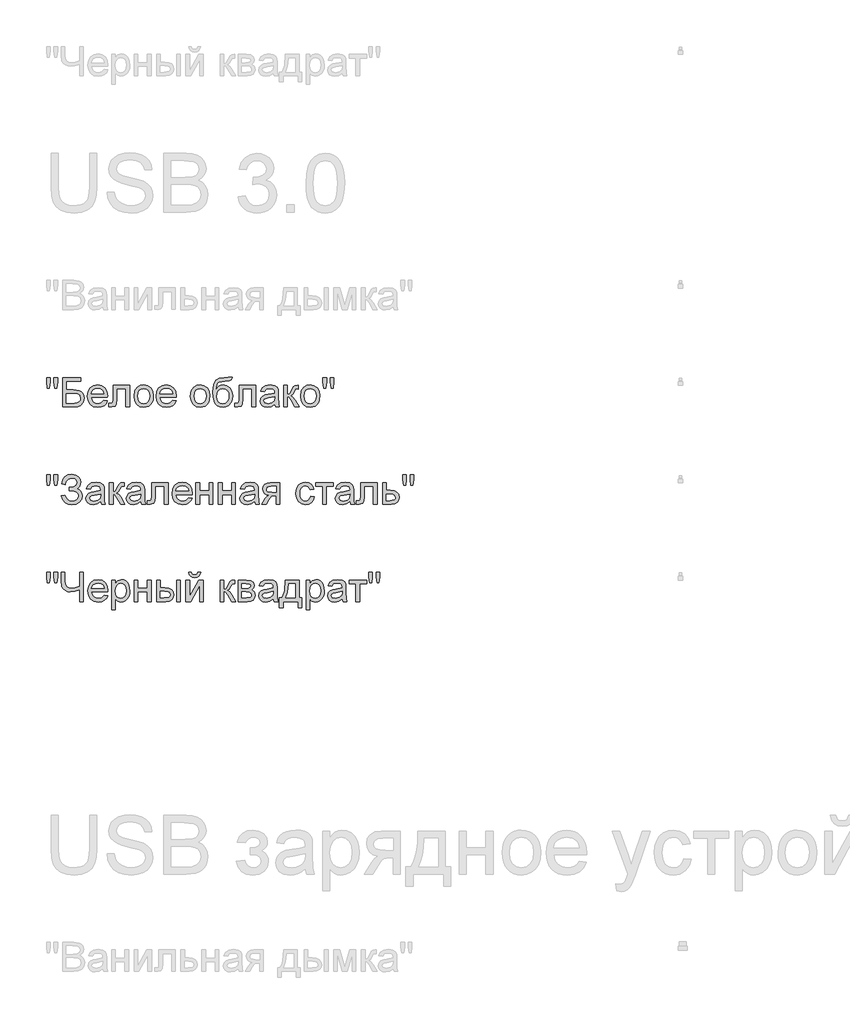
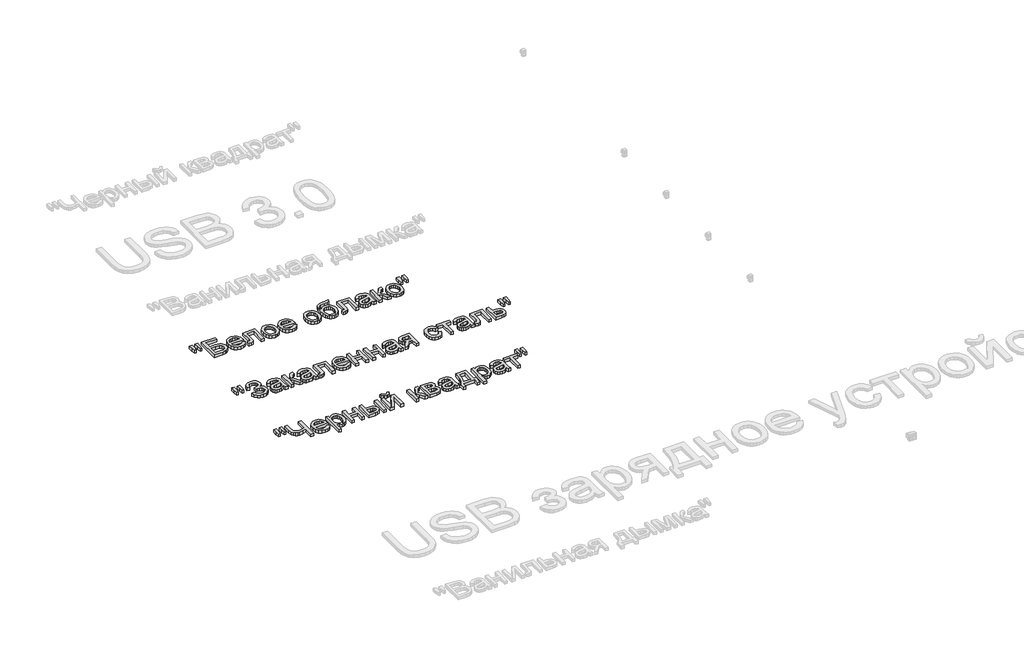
# One storey, part 31 of 168: 3 proxies.
"""IFC4 building model written with IfcOpenShell, lengths in millimetres."""

from ifc_helpers import new_model, si_unit, origin, origin_with_axes, place, context, project, spatial, polyline, outline, extrude, element, save

model = new_model("IFC4")

# Units and contexts
model_context = context("Model", 3, world=origin())
ifc_project = project(units=[si_unit("LENGTHUNIT", "METRE", prefix="MILLI")], contexts=[model_context])

# Site, building, storey
site = spatial("IfcSite", under=ifc_project)
building = spatial("IfcBuilding", under=site)
storey = spatial("IfcBuildingStorey", under=building, Name="Этаж 01", Elevation=0.0)

# Proxies
placement = place(None, origin())
element("IfcBuildingElementProxy", 1, Name="150", ObjectType="150", at=placement, inside=storey, context=model_context, shape_type="SweptSolid", body=[
    extrude(outline(polyline([(60180.1485789, -50670.3300622), (60175.550054, -50641.2305964), (60175.550054, -50616.1778325), (60194.3856121, -50616.1778325), (60194.3856121, -50641.2305964), (60190.2653338, -50670.3300622), (60180.1485789, -50670.3300622)])), origin_with_axes(), (0.0, 0.0, 1.0), 20.0),
    extrude(outline(polyline([(60217.7093306, -50670.3300622), (60213.2211703, -50641.2305964), (60213.2211703, -50616.1778325), (60232.0567284, -50616.1778325), (60232.0567284, -50641.2305964), (60227.6421445, -50670.3300622), (60217.7093306, -50670.3300622)])), origin_with_axes(), (0.0, 0.0, 1.0), 20.0),
    extrude(outline(polyline([(60257.9556209, -50616.1778325), (60352.1334117, -50616.1778325), (60352.1334117, -50635.0133907), (60276.791179, -50635.0133907), (60276.791179, -50679.7478413), (60312.0710624, -50679.7478413), (60343.157091, -50683.573814), (60353.5589544, -50689.101241), (60361.6615553, -50698.0315764), (60366.8762826, -50709.5278888), (60368.614525, -50722.7532465), (60363.6665122, -50744.2191609), (60348.8960501, -50760.5347274), (60335.6247071, -50765.2804052), (60315.4555767, -50766.8622977), (60257.9556209, -50766.8622977), (60257.9556209, -50616.1778325)]), holes=[polyline([(60276.791179, -50748.0267396), (60317.1478339, -50748.0267396), (60331.4124583, -50746.4724382), (60341.6119866, -50741.8095339), (60347.7372218, -50734.0380267), (60349.7789669, -50723.1579167), (60345.1068655, -50708.4058487), (60332.102237, -50700.533174), (60303.7201411, -50698.5833994), (60276.791179, -50698.5833994), (60276.791179, -50748.0267396)])]), origin_with_axes(), (0.0, 0.0, 1.0), 20.0),
    extrude(outline(polyline([(60469.6349209, -50733.900071), (60488.1025971, -50736.2545157), (60481.4485315, -50750.1696522), (60470.8305374, -50760.5715156), (60456.4877381, -50767.0554358), (60438.6592569, -50769.2167425), (60416.5587461, -50765.4873388), (60399.5534008, -50754.2991276), (60388.710079, -50736.3786759), (60385.0956384, -50712.4525506), (60388.7468672, -50687.7216835), (60399.7005536, -50669.2264162), (60416.4759726, -50657.6933157), (60437.5923991, -50653.8489488), (60458.0512366, -50657.6841186), (60474.3989927, -50669.189628), (60485.1181544, -50687.6481071), (60488.6912083, -50712.342186), (60488.5808437, -50717.4189576), (60403.9311966, -50717.4189576), (60407.1915508, -50731.518035), (60414.7653213, -50741.8831103), (60425.6960151, -50748.2566658), (60439.0271389, -50750.3811843), (60457.4948151, -50746.444847), (60469.6349209, -50733.900071)]), holes=[polyline([(60403.9311966, -50698.5833994), (60469.8556501, -50698.5833994), (60467.3080673, -50688.6321915), (60462.3140692, -50681.5136749), (60451.3327917, -50674.8917989), (60437.5188227, -50672.684507), (60424.8222954, -50674.445742), (60414.3238629, -50679.7294472), (60407.0260039, -50687.9654053), (60403.9311966, -50698.5833994)])]), origin_with_axes(), (0.0, 0.0, 1.0), 20.0),
    extrude(outline(polyline([(60516.9445455, -50656.2033936), (60601.7045572, -50656.2033936), (60601.7045572, -50766.7519331), (60582.868999, -50766.7519331), (60582.868999, -50675.0389517), (60535.7801036, -50675.0389517), (60535.7801036, -50727.830018), (60534.5109108, -50752.1838061), (60527.539547, -50762.4661079), (60511.0584336, -50766.8622977), (60495.7545426, -50765.9058045), (60495.7545426, -50748.0267396), (60504.1790403, -50748.0267396), (60512.6955084, -50746.8679113), (60516.0984169, -50743.1890913), (60516.9445455, -50726.7631603), (60516.9445455, -50656.2033936)])), origin_with_axes(), (0.0, 0.0, 1.0), 20.0),
    extrude(outline(polyline([(60625.2490049, -50711.5328457), (60629.323298, -50684.852204), (60641.5461773, -50666.0994193), (60656.6477332, -50656.9115664), (60674.7291332, -50653.8489488), (60694.516586, -50657.5783525), (60710.3217163, -50668.7665637), (60720.6821929, -50686.5306656), (60724.1356852, -50709.9877413), (60722.6089749, -50729.0164375), (60718.0288441, -50743.501791), (60710.5286499, -50754.3497114), (60700.2417496, -50762.4661079), (60688.0234688, -50767.5290839), (60674.7291332, -50769.2167425), (60654.7025571, -50765.5011344), (60638.915821, -50754.3543099), (60628.6657089, -50736.2177275), (60625.2490049, -50711.5328457)]), holes=[polyline([(60644.084563, -50711.4960575), (60646.2642638, -50728.5427894), (60652.8033663, -50740.6874938), (60662.6442097, -50747.9577617), (60674.7291332, -50750.3811843), (60686.7588745, -50747.9439661), (60696.5813237, -50740.6323115), (60703.1204262, -50728.3266587), (60705.300127, -50710.9074463), (60703.1066306, -50694.357355), (60696.5261414, -50682.3781975), (60686.6898966, -50675.1079296), (60674.7291332, -50672.684507), (60662.6442097, -50675.0987326), (60652.8033663, -50682.3414093), (60646.2642638, -50694.4585226), (60644.084563, -50711.4960575)])]), origin_with_axes(), (0.0, 0.0, 1.0), 20.0),
    extrude(outline(polyline([(60822.8016363, -50733.900071), (60841.2693124, -50736.2545157), (60834.6152469, -50750.1696522), (60823.9972528, -50760.5715156), (60809.6544535, -50767.0554358), (60791.8259723, -50769.2167425), (60769.7254614, -50765.4873388), (60752.7201162, -50754.2991276), (60741.8767944, -50736.3786759), (60738.2623538, -50712.4525506), (60741.9135826, -50687.7216835), (60752.867269, -50669.2264162), (60769.642688, -50657.6933157), (60790.7591145, -50653.8489488), (60811.217952, -50657.6841186), (60827.5657081, -50669.189628), (60838.2848698, -50687.6481071), (60841.8579236, -50712.342186), (60841.747559, -50717.4189576), (60757.0979119, -50717.4189576), (60760.3582661, -50731.518035), (60767.9320367, -50741.8831103), (60778.8627305, -50748.2566658), (60792.1938543, -50750.3811843), (60810.6615304, -50746.444847), (60822.8016363, -50733.900071)]), holes=[polyline([(60757.0979119, -50698.5833994), (60823.0223655, -50698.5833994), (60820.4747827, -50688.6321915), (60815.4807846, -50681.5136749), (60804.499507, -50674.8917989), (60790.6855381, -50672.684507), (60777.9890107, -50674.445742), (60767.4905783, -50679.7294472), (60760.1927192, -50687.9654053), (60757.0979119, -50698.5833994)])]), origin_with_axes(), (0.0, 0.0, 1.0), 20.0),
    extrude(outline(polyline([(60914.8457115, -50711.5328457), (60918.9200046, -50684.852204), (60931.1428839, -50666.0994193), (60946.2444398, -50656.9115664), (60964.3258398, -50653.8489488), (60984.1132926, -50657.5783525), (60999.9184229, -50668.7665637), (61010.2788995, -50686.5306656), (61013.7323918, -50709.9877413), (61012.2056815, -50729.0164375), (61007.6255507, -50743.501791), (61000.1253565, -50754.3497114), (60989.8384562, -50762.4661079), (60977.6201754, -50767.5290839), (60964.3258398, -50769.2167425), (60944.2992637, -50765.5011344), (60928.5125276, -50754.3543099), (60918.2624155, -50736.2177275), (60914.8457115, -50711.5328457)]), holes=[polyline([(60933.6812696, -50711.4960575), (60935.8609704, -50728.5427894), (60942.4000729, -50740.6874938), (60952.2409163, -50747.9577617), (60964.3258398, -50750.3811843), (60976.3555811, -50747.9439661), (60986.1780303, -50740.6323115), (60992.7171328, -50728.3266587), (60994.8968336, -50710.9074463), (60992.7033372, -50694.357355), (60986.122848, -50682.3781975), (60976.2866032, -50675.1079296), (60964.3258398, -50672.684507), (60952.2409163, -50675.0987326), (60942.4000729, -50682.3414093), (60935.8609704, -50694.4585226), (60933.6812696, -50711.4960575)])]), origin_with_axes(), (0.0, 0.0, 1.0), 20.0),
    extrude(outline(polyline([(61112.6190721, -50613.8233877), (61129.1001855, -50613.8233877), (61124.2441431, -50628.5202734), (61114.6424231, -50633.8361683), (61091.576222, -50635.0133907), (61060.5085875, -50639.3543982), (61053.3808738, -50645.0013868), (61048.5892108, -50653.2603376), (61044.560903, -50677.8716431), (61060.8764695, -50659.8454253), (61070.7954878, -50655.3480679), (61081.9009255, -50653.8489488), (61101.4998388, -50657.661126), (61117.401538, -50669.0976575), (61127.9413572, -50687.0365033), (61131.4546302, -50710.3556233), (61129.7117893, -50728.3358558), (61124.4832664, -50742.766027), (61107.9469707, -50762.3189551), (61096.6529935, -50767.4922957), (61081.9009255, -50769.2167425), (61064.9001788, -50766.995655), (61052.1576662, -50760.3323923), (61042.7812738, -50750.2064404), (61035.8788879, -50737.597285), (61031.6298508, -50718.6099755), (61030.2135052, -50689.3495614), (61033.786559, -50653.2097538), (61044.5057207, -50631.1690238), (61062.6377045, -50619.9256303), (61088.449225, -50616.1778325), (61109.4184987, -50615.7547682), (61112.6190721, -50613.8233877)]), holes=[polyline([(61112.6190721, -50709.7670121), (61110.577327, -50694.9459662), (61104.4520918, -50683.0771733), (61094.6112484, -50675.2826736), (61081.4226789, -50672.684507), (61067.6730893, -50675.4298264), (61057.473561, -50683.6657845), (61051.1551877, -50696.4910706), (61049.0490633, -50713.0043736), (61051.3759169, -50729.011839), (61058.3564778, -50740.7610702), (61068.7491442, -50747.9761558), (61081.3123143, -50750.3811843), (61093.9398638, -50747.5990768), (61103.937057, -50739.252754), (61110.4485683, -50726.3171033), (61112.6190721, -50709.7670121)])]), origin_with_axes(), (0.0, 0.0, 1.0), 20.0),
    extrude(outline(polyline([(61164.416857, -50656.2033936), (61249.1768687, -50656.2033936), (61249.1768687, -50766.7519331), (61230.3413105, -50766.7519331), (61230.3413105, -50675.0389517), (61183.2524152, -50675.0389517), (61183.2524152, -50727.830018), (61181.9832223, -50752.1838061), (61175.0118585, -50762.4661079), (61158.5307451, -50766.8622977), (61143.2268541, -50765.9058045), (61143.2268541, -50748.0267396), (61151.6513518, -50748.0267396), (61160.16782, -50746.8679113), (61163.5707284, -50743.1890913), (61164.416857, -50726.7631603), (61164.416857, -50656.2033936)])), origin_with_axes(), (0.0, 0.0, 1.0), 20.0),
    extrude(outline(polyline([(61348.063549, -50752.7356291), (61329.7982079, -50765.5011344), (61309.6198805, -50769.2167425), (61293.8791296, -50766.9818594), (61282.2678542, -50760.27721), (61275.1079508, -50750.0960758), (61272.7213164, -50737.4317381), (61276.3265599, -50722.5325173), (61285.7995213, -50711.7167867), (61298.9880908, -50705.5363691), (61315.2852632, -50702.7036778), (61347.9531844, -50696.2289547), (61348.063549, -50692.0350999), (61346.766765, -50683.6289963), (61342.8764129, -50678.1291605), (61334.1760037, -50674.0456704), (61322.0542919, -50672.684507), (61302.9980046, -50676.3081446), (61293.9113193, -50689.1656204), (61275.0757612, -50686.8111756), (61283.2243473, -50668.4170758), (61299.6318843, -50657.6381334), (61324.4823131, -50653.8489488), (61347.3093909, -50657.196675), (61360.2036548, -50665.6027786), (61365.9794022, -50678.3866779), (61366.8991071, -50694.8677913), (61366.8991071, -50718.3018744), (61367.8556003, -50751.0249778), (61371.6079967, -50766.8622977), (61352.7724385, -50766.8622977), (61348.063549, -50752.7356291)]), holes=[polyline([(61348.063549, -50715.0645128), (61317.6764962, -50720.8402601), (61301.4712943, -50723.8936807), (61294.1320485, -50728.8600876), (61291.5568745, -50736.1073629), (61297.167075, -50746.2976942), (61313.6297942, -50750.3811843), (61332.6860816, -50745.8746299), (61344.9733402, -50734.9669288), (61347.9531844, -50720.3988017), (61348.063549, -50715.0645128)])]), origin_with_axes(), (0.0, 0.0, 1.0), 20.0),
    extrude(outline(polyline([(61392.7979996, -50656.2033936), (61411.6335578, -50656.2033936), (61411.6335578, -50703.292289), (61424.2519102, -50699.9077746), (61434.5893943, -50680.1892997), (61443.1794388, -50663.1747574), (61450.7578079, -50657.6381334), (61464.5349887, -50656.2033936), (61468.1402322, -50656.2033936), (61468.1402322, -50675.1493163), (61463.0634607, -50675.0389517), (61453.8664108, -50677.0255145), (61447.3916877, -50689.4231377), (61439.7949245, -50702.8324365), (61429.1447407, -50709.3991301), (61441.0273292, -50716.7291788), (61452.6891884, -50732.1710256), (61472.8491218, -50766.8622977), (61451.4383896, -50766.8622977), (61431.6831265, -50732.9067896), (61421.7503126, -50718.5409977), (61411.6335578, -50715.0645128), (61411.6335578, -50766.8622977), (61392.7979996, -50766.8622977), (61392.7979996, -50656.2033936)])), origin_with_axes(), (0.0, 0.0, 1.0), 20.0),
    extrude(outline(polyline([(61479.9124561, -50711.5328457), (61483.9867492, -50684.852204), (61496.2096285, -50666.0994193), (61511.3111844, -50656.9115664), (61529.3925844, -50653.8489488), (61549.1800372, -50657.5783525), (61564.9851674, -50668.7665637), (61575.3456441, -50686.5306656), (61578.7991364, -50709.9877413), (61577.2724261, -50729.0164375), (61572.6922952, -50743.501791), (61565.1921011, -50754.3497114), (61554.9052008, -50762.4661079), (61542.68692, -50767.5290839), (61529.3925844, -50769.2167425), (61509.3660083, -50765.5011344), (61493.5792722, -50754.3543099), (61483.3291601, -50736.2177275), (61479.9124561, -50711.5328457)]), holes=[polyline([(61498.7480142, -50711.4960575), (61500.927715, -50728.5427894), (61507.4668175, -50740.6874938), (61517.3076609, -50747.9577617), (61529.3925844, -50750.3811843), (61541.4223257, -50747.9439661), (61551.2447749, -50740.6323115), (61557.7838774, -50728.3266587), (61559.9635782, -50710.9074463), (61557.7700818, -50694.357355), (61551.1895926, -50682.3781975), (61541.3533478, -50675.1079296), (61529.3925844, -50672.684507), (61517.3076609, -50675.0987326), (61507.4668175, -50682.3414093), (61500.927715, -50694.4585226), (61498.7480142, -50711.4960575)])]), origin_with_axes(), (0.0, 0.0, 1.0), 20.0),
    extrude(outline(polyline([(61599.8787747, -50670.3300622), (61595.2802498, -50641.2305964), (61595.2802498, -50616.1778325), (61614.1158079, -50616.1778325), (61614.1158079, -50641.2305964), (61609.9955296, -50670.3300622), (61599.8787747, -50670.3300622)])), origin_with_axes(), (0.0, 0.0, 1.0), 20.0),
    extrude(outline(polyline([(61637.4395264, -50670.3300622), (61632.9513661, -50641.2305964), (61632.9513661, -50616.1778325), (61651.7869242, -50616.1778325), (61651.7869242, -50641.2305964), (61647.3723403, -50670.3300622), (61637.4395264, -50670.3300622)])), origin_with_axes(), (0.0, 0.0, 1.0), 20.0),
])
element("IfcBuildingElementProxy", 2, Name="150", ObjectType="150", at=placement, inside=storey, context=model_context, shape_type="SweptSolid", body=[
    extrude(outline(polyline([(60180.1485789, -51170.3300622), (60175.550054, -51141.2305964), (60175.550054, -51116.1778325), (60194.3856121, -51116.1778325), (60194.3856121, -51141.2305964), (60190.2653338, -51170.3300622), (60180.1485789, -51170.3300622)])), origin_with_axes(), (0.0, 0.0, 1.0), 20.0),
    extrude(outline(polyline([(60217.7093306, -51170.3300622), (60213.2211703, -51141.2305964), (60213.2211703, -51116.1778325), (60232.0567284, -51116.1778325), (60232.0567284, -51141.2305964), (60227.6421445, -51170.3300622), (60217.7093306, -51170.3300622)])), origin_with_axes(), (0.0, 0.0, 1.0), 20.0),
    extrude(outline(polyline([(60250.8922866, -51224.4822919), (60269.7278447, -51219.7734024), (60281.2977335, -51240.172459), (60292.2284273, -51247.829003), (60306.2217387, -51250.3811843), (60320.398991, -51248.4635995), (60331.2193202, -51242.7108448), (60338.0757209, -51234.2449603), (60340.3611878, -51224.1879863), (60337.8641888, -51213.6527657), (60330.3731916, -51205.517975), (60318.5779752, -51200.3170433), (60303.1683181, -51198.5833994), (60293.2722924, -51198.5833994), (60293.2722924, -51179.7478413), (60314.591054, -51178.221131), (60327.6324708, -51170.4220327), (60333.2978535, -51156.1666054), (60331.4124583, -51147.2960508), (60325.7562726, -51139.6670979), (60316.8811195, -51134.4109839), (60305.3388219, -51132.6589459), (60286.1169876, -51138.0484171), (60275.117316, -51152.3406326), (60272.0822895, -51165.6211727), (60253.2467313, -51160.9122831), (60259.0983543, -51140.3108914), (60269.7002536, -51125.5956116), (60285.0524291, -51116.7664437), (60305.1548809, -51113.8233877), (60324.5468605, -51116.8814068), (60339.4598769, -51126.0554641), (60348.965028, -51139.3222085), (60352.1334117, -51154.6582892), (60347.2037929, -51173.3007093), (60332.4149367, -51187.2158458), (60342.8903765, -51192.0396984), (60351.5080123, -51200.1836861), (60357.2745625, -51210.948833), (60359.196746, -51223.6361633), (60355.508729, -51241.4738415), (60344.444678, -51256.1385376), (60327.2921799, -51265.9471913), (60305.3388219, -51269.2167425), (60286.2365493, -51266.4208393), (60270.7947025, -51258.0331298), (60259.0132816, -51244.053614), (60250.8922866, -51224.4822919)])), origin_with_axes(), (0.0, 0.0, 1.0), 20.0),
    extrude(outline(polyline([(60453.3745367, -51252.7356291), (60435.1091957, -51265.5011344), (60414.9308682, -51269.2167425), (60399.1901174, -51266.9818594), (60387.5788419, -51260.27721), (60380.4189386, -51250.0960758), (60378.0323041, -51237.4317381), (60381.6375477, -51222.5325173), (60391.110509, -51211.7167867), (60404.2990786, -51205.5363691), (60420.596251, -51202.7036778), (60453.2641721, -51196.2289547), (60453.3745367, -51192.0350999), (60452.0777527, -51183.6289963), (60448.1874006, -51178.1291605), (60439.4869914, -51174.0456704), (60427.3652797, -51172.684507), (60408.3089923, -51176.3081446), (60399.222307, -51189.1656204), (60380.3867489, -51186.8111756), (60388.5353351, -51168.4170758), (60404.9428721, -51157.6381334), (60429.7933008, -51153.8489488), (60452.6203786, -51157.196675), (60465.5146426, -51165.6027786), (60471.2903899, -51178.3866779), (60472.2100949, -51194.8677913), (60472.2100949, -51218.3018744), (60473.1665881, -51251.0249778), (60476.9189844, -51266.8622977), (60458.0834263, -51266.8622977), (60453.3745367, -51252.7356291)]), holes=[polyline([(60453.3745367, -51215.0645128), (60422.9874839, -51220.8402601), (60406.782282, -51223.8936807), (60399.4430362, -51228.8600876), (60396.8678623, -51236.1073629), (60402.4780627, -51246.2976942), (60418.940782, -51250.3811843), (60437.9970693, -51245.8746299), (60450.284328, -51234.9669288), (60453.2641721, -51220.3988017), (60453.3745367, -51215.0645128)])]), origin_with_axes(), (0.0, 0.0, 1.0), 20.0),
    extrude(outline(polyline([(60498.1089873, -51156.2033936), (60516.9445455, -51156.2033936), (60516.9445455, -51203.292289), (60529.5628979, -51199.9077746), (60539.900382, -51180.1892997), (60548.4904266, -51163.1747574), (60556.0687957, -51157.6381334), (60569.8459764, -51156.2033936), (60573.4512199, -51156.2033936), (60573.4512199, -51175.1493163), (60568.3744484, -51175.0389517), (60559.1773985, -51177.0255145), (60552.7026754, -51189.4231377), (60545.1059122, -51202.8324365), (60534.4557285, -51209.3991301), (60546.3383169, -51216.7291788), (60558.0001762, -51232.1710256), (60578.1601095, -51266.8622977), (60556.7493774, -51266.8622977), (60536.9941142, -51232.9067896), (60527.0613004, -51218.5409977), (60516.9445455, -51215.0645128), (60516.9445455, -51266.8622977), (60498.1089873, -51266.8622977), (60498.1089873, -51156.2033936)])), origin_with_axes(), (0.0, 0.0, 1.0), 20.0),
    extrude(outline(polyline([(60660.5656764, -51252.7356291), (60642.3003353, -51265.5011344), (60622.1220079, -51269.2167425), (60606.381257, -51266.9818594), (60594.7699816, -51260.27721), (60587.6100782, -51250.0960758), (60585.2234438, -51237.4317381), (60588.8286873, -51222.5325173), (60598.3016487, -51211.7167867), (60611.4902183, -51205.5363691), (60627.7873906, -51202.7036778), (60660.4553118, -51196.2289547), (60660.5656764, -51192.0350999), (60659.2688924, -51183.6289963), (60655.3785403, -51178.1291605), (60646.6781311, -51174.0456704), (60634.5564193, -51172.684507), (60615.500132, -51176.3081446), (60606.4134467, -51189.1656204), (60587.5778886, -51186.8111756), (60595.7264748, -51168.4170758), (60612.1340117, -51157.6381334), (60636.9844405, -51153.8489488), (60659.8115183, -51157.196675), (60672.7057822, -51165.6027786), (60678.4815296, -51178.3866779), (60679.4012346, -51194.8677913), (60679.4012346, -51218.3018744), (60680.3577277, -51251.0249778), (60684.1101241, -51266.8622977), (60665.2745659, -51266.8622977), (60660.5656764, -51252.7356291)]), holes=[polyline([(60660.5656764, -51215.0645128), (60630.1786236, -51220.8402601), (60613.9734217, -51223.8936807), (60606.6341759, -51228.8600876), (60604.0590019, -51236.1073629), (60609.6692024, -51246.2976942), (60626.1319217, -51250.3811843), (60645.188209, -51245.8746299), (60657.4754676, -51234.9669288), (60660.4553118, -51220.3988017), (60660.5656764, -51215.0645128)])]), origin_with_axes(), (0.0, 0.0, 1.0), 20.0),
    extrude(outline(polyline([(60714.7179061, -51156.2033936), (60799.4779178, -51156.2033936), (60799.4779178, -51266.7519331), (60780.6423596, -51266.7519331), (60780.6423596, -51175.0389517), (60733.5534643, -51175.0389517), (60733.5534643, -51227.830018), (60732.2842714, -51252.1838061), (60725.3129076, -51262.4661079), (60708.8317942, -51266.8622977), (60693.5279032, -51265.9058045), (60693.5279032, -51248.0267396), (60701.9524009, -51248.0267396), (60710.4688691, -51246.8679113), (60713.8717775, -51243.1890913), (60714.7179061, -51226.7631603), (60714.7179061, -51156.2033936)])), origin_with_axes(), (0.0, 0.0, 1.0), 20.0),
    extrude(outline(polyline([(60905.2072032, -51233.900071), (60923.6748794, -51236.2545157), (60917.0208138, -51250.1696522), (60906.4028197, -51260.5715156), (60892.0600204, -51267.0554358), (60874.2315392, -51269.2167425), (60852.1310283, -51265.4873388), (60835.1256831, -51254.2991276), (60824.2823613, -51236.3786759), (60820.6679207, -51212.4525506), (60824.3191495, -51187.7216835), (60835.2728359, -51169.2264162), (60852.0482549, -51157.6933157), (60873.1646814, -51153.8489488), (60893.6235189, -51157.6841186), (60909.971275, -51169.189628), (60920.6904367, -51187.6481071), (60924.2634906, -51212.342186), (60924.153126, -51217.4189576), (60839.5034789, -51217.4189576), (60842.763833, -51231.518035), (60850.3376036, -51241.8831103), (60861.2682974, -51248.2566658), (60874.5994212, -51250.3811843), (60893.0670974, -51246.444847), (60905.2072032, -51233.900071)]), holes=[polyline([(60839.5034789, -51198.5833994), (60905.4279324, -51198.5833994), (60902.8803496, -51188.6321915), (60897.8863515, -51181.5136749), (60886.9050739, -51174.8917989), (60873.091105, -51172.684507), (60860.3945777, -51174.445742), (60849.8961452, -51179.7294472), (60842.5982861, -51187.9654053), (60839.5034789, -51198.5833994)])]), origin_with_axes(), (0.0, 0.0, 1.0), 20.0),
    extrude(outline(polyline([(60943.0990487, -51156.2033936), (60961.9346069, -51156.2033936), (60961.9346069, -51198.5833994), (61011.377947, -51198.5833994), (61011.377947, -51156.2033936), (61030.2135052, -51156.2033936), (61030.2135052, -51266.8622977), (61011.377947, -51266.8622977), (61011.377947, -51217.4189576), (60961.9346069, -51217.4189576), (60961.9346069, -51266.8622977), (60943.0990487, -51266.8622977), (60943.0990487, -51156.2033936)])), origin_with_axes(), (0.0, 0.0, 1.0), 20.0),
    extrude(outline(polyline([(61058.4668424, -51156.2033936), (61077.3024005, -51156.2033936), (61077.3024005, -51198.5833994), (61126.7457407, -51198.5833994), (61126.7457407, -51156.2033936), (61145.5812988, -51156.2033936), (61145.5812988, -51266.8622977), (61126.7457407, -51266.8622977), (61126.7457407, -51217.4189576), (61077.3024005, -51217.4189576), (61077.3024005, -51266.8622977), (61058.4668424, -51266.8622977), (61058.4668424, -51156.2033936)])), origin_with_axes(), (0.0, 0.0, 1.0), 20.0),
    extrude(outline(polyline([(61244.4679792, -51252.7356291), (61226.2026381, -51265.5011344), (61206.0243107, -51269.2167425), (61190.2835598, -51266.9818594), (61178.6722843, -51260.27721), (61171.512381, -51250.0960758), (61169.1257465, -51237.4317381), (61172.7309901, -51222.5325173), (61182.2039515, -51211.7167867), (61195.392521, -51205.5363691), (61211.6896934, -51202.7036778), (61244.3576146, -51196.2289547), (61244.4679792, -51192.0350999), (61243.1711951, -51183.6289963), (61239.280843, -51178.1291605), (61230.5804338, -51174.0456704), (61218.4587221, -51172.684507), (61199.4024347, -51176.3081446), (61190.3157495, -51189.1656204), (61171.4801913, -51186.8111756), (61179.6287775, -51168.4170758), (61196.0363145, -51157.6381334), (61220.8867433, -51153.8489488), (61243.7138211, -51157.196675), (61256.608085, -51165.6027786), (61262.3838323, -51178.3866779), (61263.3035373, -51194.8677913), (61263.3035373, -51218.3018744), (61264.2600305, -51251.0249778), (61268.0124268, -51266.8622977), (61249.1768687, -51266.8622977), (61244.4679792, -51252.7356291)]), holes=[polyline([(61244.4679792, -51215.0645128), (61214.0809264, -51220.8402601), (61197.8757245, -51223.8936807), (61190.5364787, -51228.8600876), (61187.9613047, -51236.1073629), (61193.5715051, -51246.2976942), (61210.0342244, -51250.3811843), (61229.0905118, -51245.8746299), (61241.3777704, -51234.9669288), (61244.3576146, -51220.3988017), (61244.4679792, -51215.0645128)])]), origin_with_axes(), (0.0, 0.0, 1.0), 20.0),
    extrude(outline(polyline([(61373.9624415, -51156.2033936), (61373.9624415, -51266.8622977), (61355.1268833, -51266.8622977), (61355.1268833, -51224.4822919), (61344.8629756, -51224.4822919), (61330.8834598, -51226.8735249), (61317.7500726, -51242.949968), (61302.7404872, -51266.8622977), (61280.9618731, -51266.8622977), (61299.8710076, -51236.6223977), (61308.2219289, -51225.7698789), (61315.9106626, -51220.9506247), (61303.0347928, -51217.0050903), (61293.9848957, -51209.5094947), (61288.6322127, -51199.5398926), (61286.847985, -51188.172339), (61289.2852032, -51175.278075), (61296.5968579, -51165.0693497), (61308.5254316, -51158.4198826), (61324.8134069, -51156.2033936), (61373.9624415, -51156.2033936)]), holes=[polyline([(61355.1268833, -51175.0389517), (61330.2948486, -51175.0389517), (61317.4695626, -51176.1288021), (61310.1900976, -51179.3983534), (61305.6835431, -51189.6070787), (61307.3436107, -51196.7853762), (61312.3238132, -51201.7655787), (61335.8498668, -51205.6467337), (61355.1268833, -51205.6467337), (61355.1268833, -51175.0389517)])]), origin_with_axes(), (0.0, 0.0, 1.0), 20.0),
    extrude(outline(polyline([(61531.710241, -51226.8367367), (61550.5457991, -51229.1911814), (61545.2942837, -51245.9436078), (61535.4258491, -51258.6033469), (61521.8693976, -51266.5633936), (61505.5538311, -51269.2167425), (61485.518058, -51265.5149299), (61469.8508835, -51254.4094922), (61459.7387272, -51236.387873), (61456.3680084, -51211.9375159), (61457.8073467, -51195.1758924), (61462.1253616, -51180.6491522), (61469.391031, -51168.918315), (61479.6733328, -51160.5444011), (61491.974387, -51155.5228119), (61505.2963137, -51153.8489488), (61521.2118085, -51156.1482113), (61533.9359271, -51163.0459987), (61543.0639991, -51174.174429), (61548.1913544, -51189.1656204), (61529.3557962, -51191.5200651), (61520.6185988, -51177.4117906), (61505.4434665, -51172.684507), (61493.271171, -51175.0113606), (61483.6096701, -51181.9919214), (61477.3050924, -51194.0032686), (61475.2035665, -51211.4224811), (61477.2591072, -51229.0762183), (61483.4257291, -51241.1289522), (61492.9124861, -51248.0681263), (61504.9284317, -51250.3811843), (61514.6819031, -51248.9372475), (61522.678738, -51244.605437), (61528.4958721, -51237.2753883), (61531.710241, -51226.8367367)])), origin_with_axes(), (0.0, 0.0, 1.0), 20.0),
    extrude(outline(polyline([(61557.6091334, -51156.2033936), (61647.0780347, -51156.2033936), (61647.0780347, -51175.0389517), (61611.7613631, -51175.0389517), (61611.7613631, -51266.8622977), (61592.925805, -51266.8622977), (61592.925805, -51175.0389517), (61557.6091334, -51175.0389517), (61557.6091334, -51156.2033936)])), origin_with_axes(), (0.0, 0.0, 1.0), 20.0),
    extrude(outline(polyline([(61734.1924911, -51252.7356291), (61715.9271501, -51265.5011344), (61695.7488226, -51269.2167425), (61680.0080718, -51266.9818594), (61668.3967963, -51260.27721), (61661.236893, -51250.0960758), (61658.8502585, -51237.4317381), (61662.4555021, -51222.5325173), (61671.9284634, -51211.7167867), (61685.117033, -51205.5363691), (61701.4142054, -51202.7036778), (61734.0821265, -51196.2289547), (61734.1924911, -51192.0350999), (61732.8957071, -51183.6289963), (61729.005355, -51178.1291605), (61720.3049458, -51174.0456704), (61708.1832341, -51172.684507), (61689.1269467, -51176.3081446), (61680.0402614, -51189.1656204), (61661.2047033, -51186.8111756), (61669.3532895, -51168.4170758), (61685.7608265, -51157.6381334), (61710.6112552, -51153.8489488), (61733.438333, -51157.196675), (61746.332597, -51165.6027786), (61752.1083443, -51178.3866779), (61753.0280493, -51194.8677913), (61753.0280493, -51218.3018744), (61753.9845425, -51251.0249778), (61757.7369388, -51266.8622977), (61738.9013807, -51266.8622977), (61734.1924911, -51252.7356291)]), holes=[polyline([(61734.1924911, -51215.0645128), (61703.8054383, -51220.8402601), (61687.6002364, -51223.8936807), (61680.2609906, -51228.8600876), (61677.6858167, -51236.1073629), (61683.2960171, -51246.2976942), (61699.7587364, -51250.3811843), (61718.8150237, -51245.8746299), (61731.1022824, -51234.9669288), (61734.0821265, -51220.3988017), (61734.1924911, -51215.0645128)])]), origin_with_axes(), (0.0, 0.0, 1.0), 20.0),
    extrude(outline(polyline([(61788.3447208, -51156.2033936), (61873.1047325, -51156.2033936), (61873.1047325, -51266.7519331), (61854.2691744, -51266.7519331), (61854.2691744, -51175.0389517), (61807.180279, -51175.0389517), (61807.180279, -51227.830018), (61805.9110861, -51252.1838061), (61798.9397223, -51262.4661079), (61782.4586089, -51266.8622977), (61767.1547179, -51265.9058045), (61767.1547179, -51248.0267396), (61775.5792156, -51248.0267396), (61784.0956838, -51246.8679113), (61787.4985922, -51243.1890913), (61788.3447208, -51226.7631603), (61788.3447208, -51156.2033936)])), origin_with_axes(), (0.0, 0.0, 1.0), 20.0),
    extrude(outline(polyline([(61901.3580697, -51156.2033936), (61920.1936279, -51156.2033936), (61920.1936279, -51196.2289547), (61941.8986656, -51196.2289547), (61960.7158297, -51198.587998), (61974.6401632, -51205.6651278), (61983.2486019, -51216.8901272), (61986.1180814, -51231.692779), (61983.6762647, -51245.1710556), (61976.3508145, -51256.5432078), (61963.6542871, -51264.2825252), (61945.099239, -51266.8622977), (61901.3580697, -51266.8622977), (61901.3580697, -51156.2033936)]), holes=[polyline([(61920.1936279, -51248.0267396), (61937.7783873, -51248.0267396), (61960.4951005, -51244.0720081), (61965.5856676, -51239.0090322), (61967.2825233, -51231.7295672), (61962.260934, -51220.1412843), (61954.1905228, -51216.3337057), (61940.0224674, -51215.0645128), (61920.1936279, -51215.0645128), (61920.1936279, -51248.0267396)])]), origin_with_axes(), (0.0, 0.0, 1.0), 20.0),
    extrude(outline(polyline([(62009.5521645, -51170.3300622), (62004.9536396, -51141.2305964), (62004.9536396, -51116.1778325), (62023.7891977, -51116.1778325), (62023.7891977, -51141.2305964), (62019.6689194, -51170.3300622), (62009.5521645, -51170.3300622)])), origin_with_axes(), (0.0, 0.0, 1.0), 20.0),
    extrude(outline(polyline([(62047.1129162, -51170.3300622), (62042.6247559, -51141.2305964), (62042.6247559, -51116.1778325), (62061.460314, -51116.1778325), (62061.460314, -51141.2305964), (62057.0457301, -51170.3300622), (62047.1129162, -51170.3300622)])), origin_with_axes(), (0.0, 0.0, 1.0), 20.0),
])
element("IfcBuildingElementProxy", 3, Name="150", ObjectType="150", at=placement, inside=storey, context=model_context, shape_type="SweptSolid", body=[
    extrude(outline(polyline([(60180.1485789, -51670.3300622), (60175.550054, -51641.2305964), (60175.550054, -51616.1778325), (60194.3856121, -51616.1778325), (60194.3856121, -51641.2305964), (60190.2653338, -51670.3300622), (60180.1485789, -51670.3300622)])), origin_with_axes(), (0.0, 0.0, 1.0), 20.0),
    extrude(outline(polyline([(60217.7093306, -51670.3300622), (60213.2211703, -51641.2305964), (60213.2211703, -51616.1778325), (60232.0567284, -51616.1778325), (60232.0567284, -51641.2305964), (60227.6421445, -51670.3300622), (60217.7093306, -51670.3300622)])), origin_with_axes(), (0.0, 0.0, 1.0), 20.0),
    extrude(outline(polyline([(60363.9056355, -51766.8622977), (60345.0700773, -51766.8622977), (60345.0700773, -51706.5296505), (60320.0908899, -51714.6966308), (60298.4226404, -51717.4189576), (60283.7395502, -51715.556555), (60270.886673, -51709.9693472), (60260.926268, -51701.5172583), (60254.9205944, -51691.0602126), (60250.8922866, -51661.0594359), (60250.8922866, -51616.1778325), (60269.7278447, -51616.1778325), (60269.7278447, -51658.5210502), (60271.990319, -51678.8879171), (60278.7777418, -51690.8394834), (60288.7381468, -51696.6474204), (60300.5195677, -51698.5833994), (60322.2521966, -51696.2473488), (60345.0700773, -51689.2391968), (60345.0700773, -51616.1778325), (60363.9056355, -51616.1778325), (60363.9056355, -51766.8622977)])), origin_with_axes(), (0.0, 0.0, 1.0), 20.0),
    extrude(outline(polyline([(60471.9893657, -51733.900071), (60490.4570418, -51736.2545157), (60483.8029762, -51750.1696522), (60473.1849822, -51760.5715156), (60458.8421829, -51767.0554358), (60441.0137017, -51769.2167425), (60418.9131908, -51765.4873388), (60401.9078456, -51754.2991276), (60391.0645238, -51736.3786759), (60387.4500832, -51712.4525506), (60391.101312, -51687.7216835), (60402.0549984, -51669.2264162), (60418.8304174, -51657.6933157), (60439.9468439, -51653.8489488), (60460.4056814, -51657.6841186), (60476.7534375, -51669.189628), (60487.4725992, -51687.6481071), (60491.045653, -51712.342186), (60490.9352884, -51717.4189576), (60406.2856413, -51717.4189576), (60409.5459955, -51731.518035), (60417.1197661, -51741.8831103), (60428.0504599, -51748.2566658), (60441.3815837, -51750.3811843), (60459.8492598, -51746.444847), (60471.9893657, -51733.900071)]), holes=[polyline([(60406.2856413, -51698.5833994), (60472.2100949, -51698.5833994), (60469.6625121, -51688.6321915), (60464.668514, -51681.5136749), (60453.6872364, -51674.8917989), (60439.8732675, -51672.684507), (60427.1767401, -51674.445742), (60416.6783077, -51679.7294472), (60409.3804486, -51687.9654053), (60406.2856413, -51698.5833994)])]), origin_with_axes(), (0.0, 0.0, 1.0), 20.0),
    extrude(outline(polyline([(60509.8812112, -51809.2423036), (60509.8812112, -51656.2033936), (60528.7167693, -51656.2033936), (60528.7167693, -51674.6710697), (60541.739792, -51659.054479), (60559.3245513, -51653.8489488), (60572.0624654, -51655.6699647), (60583.2000928, -51661.1330123), (60592.268384, -51669.9069979), (60598.7982894, -51681.6608277), (60604.0590019, -51710.6867171), (60602.5736784, -51726.7953499), (60598.1177077, -51741.2025286), (60590.8336442, -51753.1770875), (60580.8640422, -51761.9878613), (60569.2527667, -51767.4095222), (60557.043683, -51769.2167425), (60540.6545401, -51764.3790943), (60528.7167693, -51752.1470179), (60528.7167693, -51809.2423036), (60509.8812112, -51809.2423036)]), holes=[polyline([(60528.7167693, -51712.4157624), (60530.7539159, -51729.301546), (60536.8653555, -51741.1105581), (60545.8830629, -51748.0635278), (60556.6390128, -51750.3811843), (60567.5697066, -51747.9807543), (60576.8173402, -51740.7794643), (60583.1219179, -51728.5381909), (60585.2234438, -51711.0178109), (60583.1725017, -51694.2239978), (60577.0196753, -51682.2494388), (60568.0157635, -51675.0757399), (60557.411565, -51672.684507), (60546.7659797, -51675.2274913), (60537.4171785, -51682.8564441), (60530.8918716, -51695.3322423), (60528.7167693, -51712.4157624)])]), origin_with_axes(), (0.0, 0.0, 1.0), 20.0),
    extrude(outline(polyline([(60625.2490049, -51656.2033936), (60644.084563, -51656.2033936), (60644.084563, -51698.5833994), (60693.5279032, -51698.5833994), (60693.5279032, -51656.2033936), (60712.3634613, -51656.2033936), (60712.3634613, -51766.8622977), (60693.5279032, -51766.8622977), (60693.5279032, -51717.4189576), (60644.084563, -51717.4189576), (60644.084563, -51766.8622977), (60625.2490049, -51766.8622977), (60625.2490049, -51656.2033936)])), origin_with_axes(), (0.0, 0.0, 1.0), 20.0),
    extrude(outline(polyline([(60844.2123684, -51656.2033936), (60863.0479266, -51656.2033936), (60863.0479266, -51766.8622977), (60844.2123684, -51766.8622977), (60844.2123684, -51656.2033936)])), origin_with_axes(), (0.0, 0.0, 1.0), 20.0),
    extrude(outline(polyline([(60740.6167986, -51656.2033936), (60759.4523567, -51656.2033936), (60759.4523567, -51696.2289547), (60782.739287, -51696.2289547), (60802.8670307, -51698.587998), (60817.780047, -51705.6651278), (60827.0092866, -51716.8901272), (60830.0856998, -51731.692779), (60827.5059273, -51745.1710556), (60819.7666098, -51756.5432078), (60806.3619096, -51764.2825252), (60786.785989, -51766.8622977), (60740.6167986, -51766.8622977), (60740.6167986, -51656.2033936)]), holes=[polyline([(60759.4523567, -51748.0267396), (60778.8029497, -51748.0267396), (60803.7821371, -51744.0720081), (60809.3831405, -51739.0090322), (60811.2501416, -51731.7295672), (60805.7135176, -51720.1412843), (60796.8337659, -51716.3337057), (60781.267759, -51715.0645128), (60759.4523567, -51715.0645128), (60759.4523567, -51748.0267396)])]), origin_with_axes(), (0.0, 0.0, 1.0), 20.0),
    extrude(outline(polyline([(60891.3012638, -51656.2033936), (60910.1368219, -51656.2033936), (60910.1368219, -51740.5955233), (60956.4163769, -51656.2033936), (60980.770165, -51656.2033936), (60980.770165, -51766.8622977), (60961.9346069, -51766.8622977), (60961.9346069, -51682.9852028), (60915.9493575, -51766.8622977), (60891.3012638, -51766.8622977), (60891.3012638, -51656.2033936)])), origin_with_axes(), (0.0, 0.0, 1.0), 20.0),
    extrude(outline(polyline([(60952.5168278, -51616.1778325), (60966.6434964, -51616.1778325), (60963.6038714, -51628.2397634), (60957.5016288, -51637.1287121), (60948.6126801, -51642.6055553), (60937.2129368, -51644.4311697), (60924.8429047, -51642.6193509), (60915.2503817, -51637.1838944), (60908.6928851, -51628.3087413), (60905.4279324, -51616.1778325), (60919.554601, -51616.1778325), (60924.8521017, -51626.7912281), (60935.5206796, -51630.3045011), (60947.219327, -51626.9015927), (60952.5168278, -51616.1778325)])), origin_with_axes(), (0.0, 0.0, 1.0), 20.0),
    extrude(outline(polyline([(61067.8846215, -51656.2033936), (61086.7201796, -51656.2033936), (61086.7201796, -51703.292289), (61099.3385321, -51699.9077746), (61109.6760161, -51680.1892997), (61118.2660607, -51663.1747574), (61125.8444298, -51657.6381334), (61139.6216105, -51656.2033936), (61143.2268541, -51656.2033936), (61143.2268541, -51675.1493163), (61138.1500825, -51675.0389517), (61128.9530327, -51677.0255145), (61122.4783096, -51689.4231377), (61114.8815464, -51702.8324365), (61104.2313626, -51709.3991301), (61116.113951, -51716.7291788), (61127.7758103, -51732.1710256), (61147.9357436, -51766.8622977), (61126.5250115, -51766.8622977), (61106.7697484, -51732.9067896), (61096.8369345, -51718.5409977), (61086.7201796, -51715.0645128), (61086.7201796, -51766.8622977), (61067.8846215, -51766.8622977), (61067.8846215, -51656.2033936)])), origin_with_axes(), (0.0, 0.0, 1.0), 20.0),
    extrude(outline(polyline([(61159.7079675, -51656.2033936), (61201.2050565, -51656.2033936), (61223.9585579, -51658.7233853), (61236.7608514, -51667.9572233), (61242.1135344, -51684.0520606), (61238.8761728, -51697.1302655), (61229.1273, -51706.4560741), (61241.7824406, -51716.6647995), (61246.8224239, -51734.4151058), (61243.6310476, -51748.7717006), (61236.0434815, -51758.8792584), (61224.0321343, -51764.8665379), (61207.569415, -51766.8622977), (61159.7079675, -51766.8622977), (61159.7079675, -51656.2033936)]), holes=[polyline([(61178.5435256, -51698.5833994), (61197.1583546, -51698.5833994), (61212.5174279, -51697.6269062), (61219.9854324, -51693.8009335), (61223.2779762, -51686.884752), (61221.8340394, -51681.2653545), (61217.5022289, -51677.6509139), (61197.7469658, -51675.0389517), (61178.5435256, -51675.0389517), (61178.5435256, -51698.5833994)]), polyline([(61178.5435256, -51748.0267396), (61201.6465149, -51748.0267396), (61222.137542, -51744.6238311), (61226.377382, -51739.9839195), (61227.9868658, -51732.8700014), (61224.7678983, -51723.8017102), (61216.3801888, -51718.5226036), (61199.8071049, -51717.4189576), (61178.5435256, -51717.4189576), (61178.5435256, -51748.0267396)])]), origin_with_axes(), (0.0, 0.0, 1.0), 20.0),
    extrude(outline(polyline([(61341.0002147, -51752.7356291), (61322.7348736, -51765.5011344), (61302.5565462, -51769.2167425), (61286.8157953, -51766.9818594), (61275.2045198, -51760.27721), (61268.0446165, -51750.0960758), (61265.6579821, -51737.4317381), (61269.2632256, -51722.5325173), (61278.736187, -51711.7167867), (61291.9247565, -51705.5363691), (61308.2219289, -51702.7036778), (61340.8898501, -51696.2289547), (61341.0002147, -51692.0350999), (61339.7034307, -51683.6289963), (61335.8130786, -51678.1291605), (61327.1126694, -51674.0456704), (61314.9909576, -51672.684507), (61295.9346703, -51676.3081446), (61286.847985, -51689.1656204), (61268.0124268, -51686.8111756), (61276.161013, -51668.4170758), (61292.56855, -51657.6381334), (61317.4189788, -51653.8489488), (61340.2460566, -51657.196675), (61353.1403205, -51665.6027786), (61358.9160679, -51678.3866779), (61359.8357728, -51694.8677913), (61359.8357728, -51718.3018744), (61360.792266, -51751.0249778), (61364.5446624, -51766.8622977), (61345.7091042, -51766.8622977), (61341.0002147, -51752.7356291)]), holes=[polyline([(61341.0002147, -51715.0645128), (61310.6131619, -51720.8402601), (61294.40796, -51723.8936807), (61287.0687142, -51728.8600876), (61284.4935402, -51736.1073629), (61290.1037407, -51746.2976942), (61306.5664599, -51750.3811843), (61325.6227473, -51745.8746299), (61337.9100059, -51734.9669288), (61340.8898501, -51720.3988017), (61341.0002147, -51715.0645128)])]), origin_with_axes(), (0.0, 0.0, 1.0), 20.0),
    extrude(outline(polyline([(61402.2157787, -51656.2033936), (61472.8491218, -51656.2033936), (61472.8491218, -51748.0267396), (61486.9757904, -51748.0267396), (61486.9757904, -51797.4700797), (61468.1402322, -51797.4700797), (61468.1402322, -51766.8622977), (61390.4435548, -51766.8622977), (61390.4435548, -51797.4700797), (61371.6079967, -51797.4700797), (61371.6079967, -51748.0267396), (61383.3802205, -51748.0267396), (61391.9380754, -51732.5619002), (61397.9299534, -51712.1030628), (61402.2157787, -51656.2033936)]), holes=[polyline([(61418.6968921, -51675.0389517), (61414.2823081, -51717.9523865), (61404.5702235, -51748.0267396), (61454.0135636, -51748.0267396), (61454.0135636, -51675.0389517), (61418.6968921, -51675.0389517)])]), origin_with_axes(), (0.0, 0.0, 1.0), 20.0),
    extrude(outline(polyline([(61508.1657933, -51809.2423036), (61508.1657933, -51656.2033936), (61527.0013514, -51656.2033936), (61527.0013514, -51674.6710697), (61540.0243741, -51659.054479), (61557.6091334, -51653.8489488), (61570.3470475, -51655.6699647), (61581.4846749, -51661.1330123), (61590.5529661, -51669.9069979), (61597.0828715, -51681.6608277), (61602.3435841, -51710.6867171), (61600.8582605, -51726.7953499), (61596.4022898, -51741.2025286), (61589.1182263, -51753.1770875), (61579.1486243, -51761.9878613), (61567.5373488, -51767.4095222), (61555.3282651, -51769.2167425), (61538.9391222, -51764.3790943), (61527.0013514, -51752.1470179), (61527.0013514, -51809.2423036), (61508.1657933, -51809.2423036)]), holes=[polyline([(61527.0013514, -51712.4157624), (61529.038498, -51729.301546), (61535.1499376, -51741.1105581), (61544.167645, -51748.0635278), (61554.9235949, -51750.3811843), (61565.8542887, -51747.9807543), (61575.1019223, -51740.7794643), (61581.4065, -51728.5381909), (61583.5080259, -51711.0178109), (61581.4570838, -51694.2239978), (61575.3042574, -51682.2494388), (61566.3003456, -51675.0757399), (61555.6961471, -51672.684507), (61545.0505618, -51675.2274913), (61535.7017606, -51682.8564441), (61529.1764537, -51695.3322423), (61527.0013514, -51712.4157624)])]), origin_with_axes(), (0.0, 0.0, 1.0), 20.0),
    extrude(outline(polyline([(61694.1669301, -51752.7356291), (61675.901589, -51765.5011344), (61655.7232616, -51769.2167425), (61639.9825107, -51766.9818594), (61628.3712352, -51760.27721), (61621.2113319, -51750.0960758), (61618.8246974, -51737.4317381), (61622.429941, -51722.5325173), (61631.9029024, -51711.7167867), (61645.0914719, -51705.5363691), (61661.3886443, -51702.7036778), (61694.0565655, -51696.2289547), (61694.1669301, -51692.0350999), (61692.870146, -51683.6289963), (61688.9797939, -51678.1291605), (61680.2793847, -51674.0456704), (61668.157673, -51672.684507), (61649.1013856, -51676.3081446), (61640.0147004, -51689.1656204), (61621.1791422, -51686.8111756), (61629.3277284, -51668.4170758), (61645.7352654, -51657.6381334), (61670.5856942, -51653.8489488), (61693.412772, -51657.196675), (61706.3070359, -51665.6027786), (61712.0827832, -51678.3866779), (61713.0024882, -51694.8677913), (61713.0024882, -51718.3018744), (61713.9589814, -51751.0249778), (61717.7113777, -51766.8622977), (61698.8758196, -51766.8622977), (61694.1669301, -51752.7356291)]), holes=[polyline([(61694.1669301, -51715.0645128), (61663.7798773, -51720.8402601), (61647.5746754, -51723.8936807), (61640.2354296, -51728.8600876), (61637.6602556, -51736.1073629), (61643.270456, -51746.2976942), (61659.7331753, -51750.3811843), (61678.7894627, -51745.8746299), (61691.0767213, -51734.9669288), (61694.0565655, -51720.3988017), (61694.1669301, -51715.0645128)])]), origin_with_axes(), (0.0, 0.0, 1.0), 20.0),
    extrude(outline(polyline([(61729.4836016, -51656.2033936), (61818.9525028, -51656.2033936), (61818.9525028, -51675.0389517), (61783.6358313, -51675.0389517), (61783.6358313, -51766.8622977), (61764.8002731, -51766.8622977), (61764.8002731, -51675.0389517), (61729.4836016, -51675.0389517), (61729.4836016, -51656.2033936)])), origin_with_axes(), (0.0, 0.0, 1.0), 20.0),
    extrude(outline(polyline([(61835.3232516, -51670.3300622), (61830.7247267, -51641.2305964), (61830.7247267, -51616.1778325), (61849.5602848, -51616.1778325), (61849.5602848, -51641.2305964), (61845.4400065, -51670.3300622), (61835.3232516, -51670.3300622)])), origin_with_axes(), (0.0, 0.0, 1.0), 20.0),
    extrude(outline(polyline([(61872.8840033, -51670.3300622), (61868.395843, -51641.2305964), (61868.395843, -51616.1778325), (61887.2314011, -51616.1778325), (61887.2314011, -51641.2305964), (61882.8168172, -51670.3300622), (61872.8840033, -51670.3300622)])), origin_with_axes(), (0.0, 0.0, 1.0), 20.0),
])

save(model, "model.ifc")
